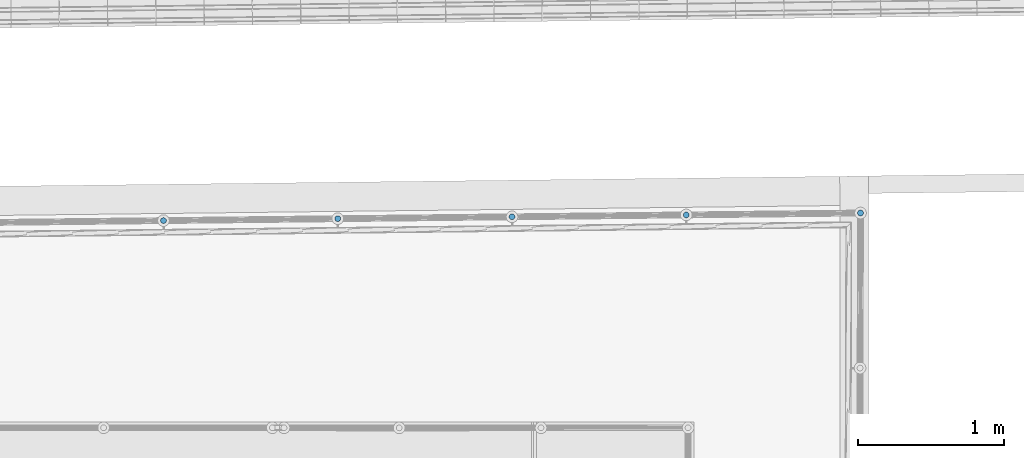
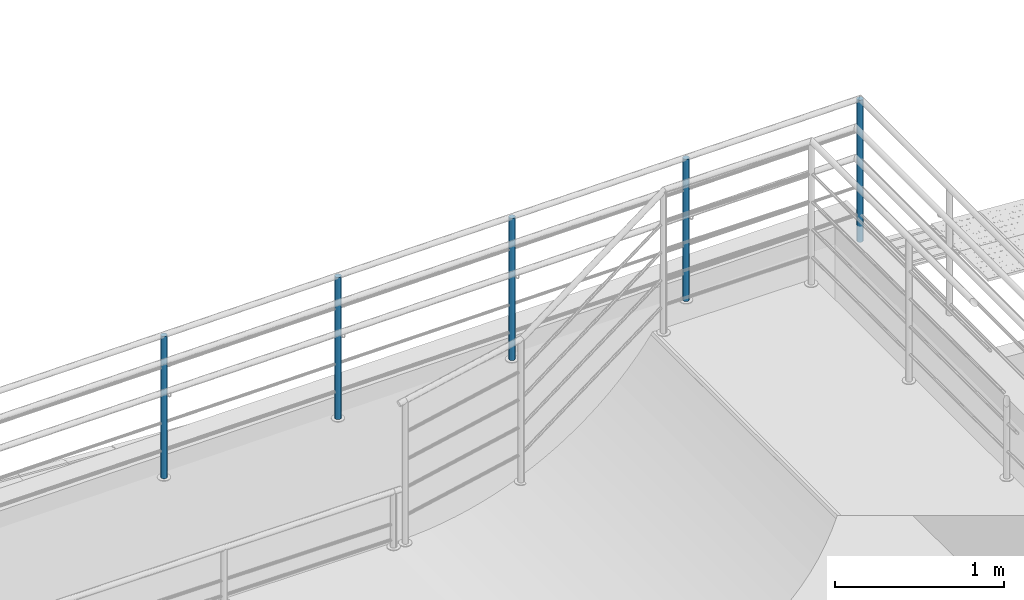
# One storey, part 73 of 237: 5 building element parts, 1 element without a shape of its own.
"""IFC2X3 building model written with IfcOpenShell, lengths in millimetres."""

from ifc_helpers import new_model, entity, si_unit, converted_unit, derived_unit, money_unit, direction, frame, origin_with_axes, place, context, subcontext, project, spatial, faceted_brep, material, type_object, element, aggregate, save


model = new_model("IFC2X3")

# Units and contexts
model_context = context("Model", 3, precision=0.01, world=origin_with_axes(), true_north=direction((0.0, 1.0)))
body_context = subcontext(model_context, "Body", "Model", "MODEL_VIEW")
ifc_project = project(units=[si_unit("LENGTHUNIT", "METRE", prefix="MILLI"), si_unit("AREAUNIT", "SQUARE_METRE"), si_unit("VOLUMEUNIT", "CUBIC_METRE"), converted_unit("PLANEANGLEUNIT", "DEGREE", entity("IfcPlaneAngleMeasure", 0.0174532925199), si_unit("PLANEANGLEUNIT", "RADIAN"), dimensions=[0, 0, 0, 0, 0, 0, 0]), money_unit("USD"), converted_unit("TIMEUNIT", "Year", entity("IfcTimeMeasure", 31556926.0), si_unit("TIMEUNIT", "SECOND"), dimensions=[0, 0, 1, 0, 0, 0, 0]), si_unit("MASSUNIT", "GRAM", prefix="KILO"), si_unit("THERMODYNAMICTEMPERATUREUNIT", "DEGREE_CELSIUS"), si_unit("LUMINOUSINTENSITYUNIT", "LUMEN"), si_unit("ENERGYUNIT", "JOULE", prefix="MEGA"), derived_unit("THERMALCONDUCTANCEUNIT", [(si_unit("POWERUNIT", "WATT"), 1), (si_unit("LENGTHUNIT", "METRE"), -1), (si_unit("THERMODYNAMICTEMPERATUREUNIT", "KELVIN"), -1)]), derived_unit("SPECIFICHEATCAPACITYUNIT", [(si_unit("ENERGYUNIT", "JOULE"), 1), (si_unit("MASSUNIT", "GRAM", prefix="KILO"), -1), (si_unit("THERMODYNAMICTEMPERATUREUNIT", "KELVIN"), -1)]), derived_unit("MASSDENSITYUNIT", [(si_unit("MASSUNIT", "GRAM", prefix="KILO"), 1), (si_unit("VOLUMEUNIT", "CUBIC_METRE"), -1)])], contexts=[model_context])

# Site, building, storey
site_placement = place(None, origin_with_axes())
site = spatial("IfcSite", under=ifc_project, at=site_placement, Name="Local", CompositionType="ELEMENT")
building_placement = place(site_placement, origin_with_axes())
building = spatial("IfcBuilding", under=site, at=building_placement, Name="Construção", CompositionType="ELEMENT")
storey_placement = place(building_placement, origin_with_axes())
storey = spatial("IfcBuildingStorey", under=building, at=storey_placement, Name="Pavimento Térreo", CompositionType="ELEMENT", Elevation=0.0)

# Railing, building element parts
railing_type = type_object("IfcRailingType", Name="Tipo de Guarda-Corpo", PredefinedType="NOTDEFINED")
railing_placement = place(storey_placement, frame((70326.6870103, 28675.2458388, -1357.10819655), z_axis=(0.0, 0.0, 1.0), x_axis=(1.0, 0.0, 0.0)))
railing = element("IfcRailing", 1, at=railing_placement, inside=storey, type_object=railing_type, Name="Guarda-Corpo - 004", PredefinedType="NOTDEFINED")
ifc_material = material(Name="Aço - Inoxidável")
building_element_part_1_placement = place(railing_placement, origin_with_axes())
building_element_part_1 = element("IfcBuildingElementPart", 2, at=building_element_part_1_placement, material=ifc_material, Name="Aço - Inoxidável", context=body_context, shape_type="Brep", body=[
    faceted_brep([(-4702.19254738, 6648.47087364, 5.0), (-4701.87830508, 6651.94291185, 5.0), (-4701.87830508, 6651.94291185, 1030.0), (-4702.19254738, 6648.47087364, 1030.0), (-4702.17174992, 6655.41676961, 5.0), (-4703.10492875, 6645.10615109, 5.0), (-4704.58772694, 6641.9509796, 5.0), (-4706.59588787, 6639.10122746, 5.0), (-4709.06839459, 6636.64348294, 5.0), (-4711.93012123, 6634.65242337, 5.0), (-4715.09411568, 6633.18854608, 5.0), (-4718.46424157, 6632.29633025, 5.0), (-4721.93809933, 6632.00288541, 5.0), (-4725.41013754, 6632.31712771, 5.0), (-4728.77486009, 6633.22950909, 5.0), (-4731.93003158, 6634.71230727, 5.0), (-4734.77978372, 6636.7204682, 5.0), (-4737.23752824, 6639.19297492, 5.0), (-4739.22858781, 6642.05470156, 5.0), (-4740.69246509, 6645.21869601, 5.0), (-4741.58468092, 6648.5888219, 5.0), (-4741.87812577, 6652.06267966, 5.0), (-4741.56388346, 6655.53471787, 5.0), (-4740.65150209, 6658.89944042, 5.0), (-4739.16870391, 6662.05461191, 5.0), (-4737.16054298, 6664.90436405, 5.0), (-4734.68803626, 6667.36210857, 5.0), (-4731.82630962, 6669.35316814, 5.0), (-4728.66231517, 6670.81704543, 5.0), (-4725.29218928, 6671.70926125, 5.0), (-4721.81833152, 6672.0027061, 5.0), (-4718.34629331, 6671.68846379, 5.0), (-4714.98157076, 6670.77608242, 5.0), (-4711.82639927, 6669.29328424, 5.0), (-4708.97664713, 6667.28512331, 5.0), (-4706.51890261, 6664.81261659, 5.0), (-4704.52784304, 6661.95088995, 5.0), (-4703.06396575, 6658.7868955, 5.0), (-4702.17174992, 6655.41676961, 1030.0), (-4725.41013754, 6632.31712771, 1030.0), (-4721.93809933, 6632.00288541, 1030.0), (-4718.46424157, 6632.29633025, 1030.0), (-4715.09411568, 6633.18854608, 1030.0), (-4711.93012123, 6634.65242337, 1030.0), (-4709.06839459, 6636.64348294, 1030.0), (-4706.59588787, 6639.10122746, 1030.0), (-4704.58772694, 6641.9509796, 1030.0), (-4703.10492875, 6645.10615109, 1030.0), (-4703.06396575, 6658.7868955, 1030.0), (-4704.52784304, 6661.95088995, 1030.0), (-4706.51890261, 6664.81261659, 1030.0), (-4708.97664713, 6667.28512331, 1030.0), (-4711.82639927, 6669.29328424, 1030.0), (-4714.98157076, 6670.77608242, 1030.0), (-4718.34629331, 6671.68846379, 1030.0), (-4721.81833152, 6672.0027061, 1030.0), (-4725.29218928, 6671.70926125, 1030.0), (-4728.66231517, 6670.81704543, 1030.0), (-4731.82630962, 6669.35316814, 1030.0), (-4734.68803626, 6667.36210857, 1030.0), (-4737.16054298, 6664.90436405, 1030.0), (-4739.16870391, 6662.05461191, 1030.0), (-4740.65150209, 6658.89944042, 1030.0), (-4741.56388346, 6655.53471787, 1030.0), (-4741.87812577, 6652.06267966, 1030.0), (-4741.58468092, 6648.5888219, 1030.0), (-4740.69246509, 6645.21869601, 1030.0), (-4739.22858781, 6642.05470156, 1030.0), (-4737.23752824, 6639.19297492, 1030.0), (-4734.77978372, 6636.7204682, 1030.0), (-4731.93003158, 6634.71230727, 1030.0), (-4728.77486009, 6633.22950909, 1030.0)], [[[0, 1, 2, 3]], [[4, 1, 0, 5, 6, 7, 8, 9, 10, 11, 12, 13, 14, 15, 16, 17, 18, 19, 20, 21, 22, 23, 24, 25, 26, 27, 28, 29, 30, 31, 32, 33, 34, 35, 36, 37]], [[1, 4, 38, 2]], [[39, 40, 41, 42, 43, 44, 45, 46, 47, 3, 2, 38, 48, 49, 50, 51, 52, 53, 54, 55, 56, 57, 58, 59, 60, 61, 62, 63, 64, 65, 66, 67, 68, 69, 70, 71]], [[5, 0, 3, 47]], [[6, 5, 47, 46]], [[7, 6, 46, 45]], [[8, 7, 45, 44]], [[9, 8, 44, 43]], [[10, 9, 43, 42]], [[11, 10, 42, 41]], [[12, 11, 41, 40]], [[13, 12, 40, 39]], [[14, 13, 39, 71]], [[15, 14, 71, 70]], [[16, 15, 70, 69]], [[17, 16, 69, 68]], [[18, 17, 68, 67]], [[19, 18, 67, 66]], [[20, 19, 66, 65]], [[21, 20, 65, 64]], [[22, 21, 64, 63]], [[23, 22, 63, 62]], [[24, 23, 62, 61]], [[25, 24, 61, 60]], [[26, 25, 60, 59]], [[27, 26, 59, 58]], [[28, 27, 58, 57]], [[29, 28, 57, 56]], [[30, 29, 56, 55]], [[31, 30, 55, 54]], [[32, 31, 54, 53]], [[33, 32, 53, 52]], [[34, 33, 52, 51]], [[35, 34, 51, 50]], [[36, 35, 50, 49]], [[37, 36, 49, 48]], [[4, 37, 48, 38]]]),
])
building_element_part_2_placement = place(railing_placement, origin_with_axes())
building_element_part_2 = element("IfcBuildingElementPart", 3, at=building_element_part_2_placement, material=ifc_material, Name="Aço - Inoxidável", context=body_context, shape_type="Brep", body=[
    faceted_brep([(-5913.25690001, 6658.74187473, 5.0), (-5916.73296278, 6659.00792963, 5.0), (-5916.73296278, 6659.00792963, 1030.0), (-5913.25690001, 6658.74187473, 1030.0), (-5920.2024163, 6658.66633059, 5.0), (-5909.87984639, 6657.87624983, 5.0), (-5906.70441199, 6656.43735652, 5.0), (-5903.82708078, 6654.46891483, 5.0), (-5901.33527901, 6652.03073488, 5.0), (-5899.3047188, 6649.19689951, 5.0), (-5897.79709772, 6646.0535134, 5.0), (-5896.85822406, 6642.69608673, 5.0), (-5896.51662502, 6639.22663322, 5.0), (-5896.78267992, 6635.75057045, 5.0), (-5897.64830482, 6632.37351683, 5.0), (-5899.08719813, 6629.19808243, 5.0), (-5901.05563982, 6626.32075122, 5.0), (-5903.49381978, 6623.82894944, 5.0), (-5906.32765514, 6621.79838924, 5.0), (-5909.47104125, 6620.29076816, 5.0), (-5912.82846792, 6619.3518945, 5.0), (-5916.29792143, 6619.01029546, 5.0), (-5919.7739842, 6619.27635036, 5.0), (-5923.15103782, 6620.14197525, 5.0), (-5926.32647222, 6621.58086857, 5.0), (-5929.20380343, 6623.54931025, 5.0), (-5931.69560521, 6625.98749021, 5.0), (-5933.72616541, 6628.82132557, 5.0), (-5935.23378649, 6631.96471169, 5.0), (-5936.17266015, 6635.32213836, 5.0), (-5936.51425919, 6638.79159187, 5.0), (-5936.24820429, 6642.26765464, 5.0), (-5935.3825794, 6645.64470826, 5.0), (-5933.94368608, 6648.82014266, 5.0), (-5931.9752444, 6651.69747387, 5.0), (-5929.53706444, 6654.18927565, 5.0), (-5926.70322908, 6656.21983585, 5.0), (-5923.55984296, 6657.72745693, 5.0), (-5920.2024163, 6658.66633059, 1030.0), (-5896.78267992, 6635.75057045, 1030.0), (-5896.51662502, 6639.22663322, 1030.0), (-5896.85822406, 6642.69608673, 1030.0), (-5897.79709772, 6646.0535134, 1030.0), (-5899.3047188, 6649.19689951, 1030.0), (-5901.33527901, 6652.03073488, 1030.0), (-5903.82708078, 6654.46891483, 1030.0), (-5906.70441199, 6656.43735652, 1030.0), (-5909.87984639, 6657.87624983, 1030.0), (-5923.55984296, 6657.72745693, 1030.0), (-5926.70322908, 6656.21983585, 1030.0), (-5929.53706444, 6654.18927565, 1030.0), (-5931.9752444, 6651.69747387, 1030.0), (-5933.94368608, 6648.82014266, 1030.0), (-5935.3825794, 6645.64470826, 1030.0), (-5936.24820429, 6642.26765464, 1030.0), (-5936.51425919, 6638.79159187, 1030.0), (-5936.17266015, 6635.32213836, 1030.0), (-5935.23378649, 6631.96471169, 1030.0), (-5933.72616541, 6628.82132557, 1030.0), (-5931.69560521, 6625.98749021, 1030.0), (-5929.20380343, 6623.54931025, 1030.0), (-5926.32647222, 6621.58086857, 1030.0), (-5923.15103782, 6620.14197525, 1030.0), (-5919.7739842, 6619.27635036, 1030.0), (-5916.29792143, 6619.01029546, 1030.0), (-5912.82846792, 6619.3518945, 1030.0), (-5909.47104125, 6620.29076816, 1030.0), (-5906.32765514, 6621.79838924, 1030.0), (-5903.49381978, 6623.82894944, 1030.0), (-5901.05563982, 6626.32075122, 1030.0), (-5899.08719813, 6629.19808243, 1030.0), (-5897.64830482, 6632.37351683, 1030.0)], [[[0, 1, 2, 3]], [[4, 1, 0, 5, 6, 7, 8, 9, 10, 11, 12, 13, 14, 15, 16, 17, 18, 19, 20, 21, 22, 23, 24, 25, 26, 27, 28, 29, 30, 31, 32, 33, 34, 35, 36, 37]], [[1, 4, 38, 2]], [[39, 40, 41, 42, 43, 44, 45, 46, 47, 3, 2, 38, 48, 49, 50, 51, 52, 53, 54, 55, 56, 57, 58, 59, 60, 61, 62, 63, 64, 65, 66, 67, 68, 69, 70, 71]], [[5, 0, 3, 47]], [[6, 5, 47, 46]], [[7, 6, 46, 45]], [[8, 7, 45, 44]], [[9, 8, 44, 43]], [[10, 9, 43, 42]], [[11, 10, 42, 41]], [[12, 11, 41, 40]], [[13, 12, 40, 39]], [[14, 13, 39, 71]], [[15, 14, 71, 70]], [[16, 15, 70, 69]], [[17, 16, 69, 68]], [[18, 17, 68, 67]], [[19, 18, 67, 66]], [[20, 19, 66, 65]], [[21, 20, 65, 64]], [[22, 21, 64, 63]], [[23, 22, 63, 62]], [[24, 23, 62, 61]], [[25, 24, 61, 60]], [[26, 25, 60, 59]], [[27, 26, 59, 58]], [[28, 27, 58, 57]], [[29, 28, 57, 56]], [[30, 29, 56, 55]], [[31, 30, 55, 54]], [[32, 31, 54, 53]], [[33, 32, 53, 52]], [[34, 33, 52, 51]], [[35, 34, 51, 50]], [[36, 35, 50, 49]], [[37, 36, 49, 48]], [[4, 37, 48, 38]]]),
])
building_element_part_3_placement = place(railing_placement, origin_with_axes())
building_element_part_3 = element("IfcBuildingElementPart", 4, at=building_element_part_3_placement, material=ifc_material, Name="Aço - Inoxidável", context=body_context, shape_type="Brep", body=[
    faceted_brep([(-7107.8941267, 6645.74819152, 5.0), (-7111.37018947, 6646.01424642, 5.0), (-7111.37018947, 6646.01424642, 1030.0), (-7107.8941267, 6645.74819152, 1030.0), (-7114.83964298, 6645.67264738, 5.0), (-7104.51707308, 6644.88256662, 5.0), (-7101.34163868, 6643.44367331, 5.0), (-7098.46430747, 6641.47523162, 5.0), (-7095.97250569, 6639.03705166, 5.0), (-7093.94194549, 6636.2032163, 5.0), (-7092.43432441, 6633.05983019, 5.0), (-7091.49545075, 6629.70240352, 5.0), (-7091.15385171, 6626.23295, 5.0), (-7091.41990661, 6622.75688723, 5.0), (-7092.2855315, 6619.37983362, 5.0), (-7093.72442482, 6616.20439922, 5.0), (-7095.6928665, 6613.327068, 5.0), (-7098.13104646, 6610.83526623, 5.0), (-7100.96488182, 6608.80470603, 5.0), (-7104.10826794, 6607.29708495, 5.0), (-7107.46569461, 6606.35821128, 5.0), (-7110.93514812, 6606.01661225, 5.0), (-7114.41121089, 6606.28266715, 5.0), (-7117.78826451, 6607.14829204, 5.0), (-7120.96369891, 6608.58718535, 5.0), (-7123.84103012, 6610.55562704, 5.0), (-7126.3328319, 6612.993807, 5.0), (-7128.3633921, 6615.82764236, 5.0), (-7129.87101318, 6618.97102847, 5.0), (-7130.80988684, 6622.32845514, 5.0), (-7131.15148588, 6625.79790866, 5.0), (-7130.88543098, 6629.27397143, 5.0), (-7130.01980608, 6632.65102505, 5.0), (-7128.58091277, 6635.82645944, 5.0), (-7126.61247108, 6638.70379066, 5.0), (-7124.17429113, 6641.19559243, 5.0), (-7121.34045576, 6643.22615264, 5.0), (-7118.19706965, 6644.73377372, 5.0), (-7114.83964298, 6645.67264738, 1030.0), (-7091.41990661, 6622.75688723, 1030.0), (-7091.15385171, 6626.23295, 1030.0), (-7091.49545075, 6629.70240352, 1030.0), (-7092.43432441, 6633.05983019, 1030.0), (-7093.94194549, 6636.2032163, 1030.0), (-7095.97250569, 6639.03705166, 1030.0), (-7098.46430747, 6641.47523162, 1030.0), (-7101.34163868, 6643.44367331, 1030.0), (-7104.51707308, 6644.88256662, 1030.0), (-7118.19706965, 6644.73377372, 1030.0), (-7121.34045576, 6643.22615264, 1030.0), (-7124.17429113, 6641.19559243, 1030.0), (-7126.61247108, 6638.70379066, 1030.0), (-7128.58091277, 6635.82645944, 1030.0), (-7130.01980608, 6632.65102505, 1030.0), (-7130.88543098, 6629.27397143, 1030.0), (-7131.15148588, 6625.79790866, 1030.0), (-7130.80988684, 6622.32845514, 1030.0), (-7129.87101318, 6618.97102847, 1030.0), (-7128.3633921, 6615.82764236, 1030.0), (-7126.3328319, 6612.993807, 1030.0), (-7123.84103012, 6610.55562704, 1030.0), (-7120.96369891, 6608.58718535, 1030.0), (-7117.78826451, 6607.14829204, 1030.0), (-7114.41121089, 6606.28266715, 1030.0), (-7110.93514812, 6606.01661225, 1030.0), (-7107.46569461, 6606.35821128, 1030.0), (-7104.10826794, 6607.29708495, 1030.0), (-7100.96488182, 6608.80470603, 1030.0), (-7098.13104646, 6610.83526623, 1030.0), (-7095.6928665, 6613.327068, 1030.0), (-7093.72442482, 6616.20439922, 1030.0), (-7092.2855315, 6619.37983362, 1030.0)], [[[0, 1, 2, 3]], [[4, 1, 0, 5, 6, 7, 8, 9, 10, 11, 12, 13, 14, 15, 16, 17, 18, 19, 20, 21, 22, 23, 24, 25, 26, 27, 28, 29, 30, 31, 32, 33, 34, 35, 36, 37]], [[1, 4, 38, 2]], [[39, 40, 41, 42, 43, 44, 45, 46, 47, 3, 2, 38, 48, 49, 50, 51, 52, 53, 54, 55, 56, 57, 58, 59, 60, 61, 62, 63, 64, 65, 66, 67, 68, 69, 70, 71]], [[5, 0, 3, 47]], [[6, 5, 47, 46]], [[7, 6, 46, 45]], [[8, 7, 45, 44]], [[9, 8, 44, 43]], [[10, 9, 43, 42]], [[11, 10, 42, 41]], [[12, 11, 41, 40]], [[13, 12, 40, 39]], [[14, 13, 39, 71]], [[15, 14, 71, 70]], [[16, 15, 70, 69]], [[17, 16, 69, 68]], [[18, 17, 68, 67]], [[19, 18, 67, 66]], [[20, 19, 66, 65]], [[21, 20, 65, 64]], [[22, 21, 64, 63]], [[23, 22, 63, 62]], [[24, 23, 62, 61]], [[25, 24, 61, 60]], [[26, 25, 60, 59]], [[27, 26, 59, 58]], [[28, 27, 58, 57]], [[29, 28, 57, 56]], [[30, 29, 56, 55]], [[31, 30, 55, 54]], [[32, 31, 54, 53]], [[33, 32, 53, 52]], [[34, 33, 52, 51]], [[35, 34, 51, 50]], [[36, 35, 50, 49]], [[37, 36, 49, 48]], [[4, 37, 48, 38]]]),
])
building_element_part_4_placement = place(railing_placement, origin_with_axes())
building_element_part_4 = element("IfcBuildingElementPart", 5, at=building_element_part_4_placement, material=ifc_material, Name="Aço - Inoxidável", context=body_context, shape_type="Brep", body=[
    faceted_brep([(-8302.53135338, 6632.7545083, 5.0), (-8306.00741615, 6633.0205632, 5.0), (-8306.00741615, 6633.0205632, 1030.0), (-8302.53135338, 6632.7545083, 1030.0), (-8309.47686967, 6632.67896417, 5.0), (-8299.15429976, 6631.88888341, 5.0), (-8295.97886536, 6630.4499901, 5.0), (-8293.10153415, 6628.48154841, 5.0), (-8290.60973238, 6626.04336845, 5.0), (-8288.57917217, 6623.20953309, 5.0), (-8287.07155109, 6620.06614698, 5.0), (-8286.13267743, 6616.70872031, 5.0), (-8285.79107839, 6613.23926679, 5.0), (-8286.05713329, 6609.76320402, 5.0), (-8286.92275819, 6606.38615041, 5.0), (-8288.3616515, 6603.21071601, 5.0), (-8290.33009319, 6600.33338479, 5.0), (-8292.76827314, 6597.84158302, 5.0), (-8295.60210851, 6595.81102282, 5.0), (-8298.74549462, 6594.30340173, 5.0), (-8302.10292129, 6593.36452807, 5.0), (-8305.5723748, 6593.02292904, 5.0), (-8309.04843757, 6593.28898394, 5.0), (-8312.42549119, 6594.15460883, 5.0), (-8315.60092559, 6595.59350214, 5.0), (-8318.4782568, 6597.56194383, 5.0), (-8320.97005858, 6600.00012379, 5.0), (-8323.00061878, 6602.83395915, 5.0), (-8324.50823986, 6605.97734526, 5.0), (-8325.44711352, 6609.33477193, 5.0), (-8325.78871256, 6612.80422545, 5.0), (-8325.52265766, 6616.28028822, 5.0), (-8324.65703277, 6619.65734183, 5.0), (-8323.21813945, 6622.83277623, 5.0), (-8321.24969777, 6625.71010745, 5.0), (-8318.81151781, 6628.20190922, 5.0), (-8315.97768245, 6630.23246942, 5.0), (-8312.83429633, 6631.74009051, 5.0), (-8309.47686967, 6632.67896417, 1030.0), (-8286.05713329, 6609.76320402, 1030.0), (-8285.79107839, 6613.23926679, 1030.0), (-8286.13267743, 6616.70872031, 1030.0), (-8287.07155109, 6620.06614698, 1030.0), (-8288.57917217, 6623.20953309, 1030.0), (-8290.60973238, 6626.04336845, 1030.0), (-8293.10153415, 6628.48154841, 1030.0), (-8295.97886536, 6630.4499901, 1030.0), (-8299.15429976, 6631.88888341, 1030.0), (-8312.83429633, 6631.74009051, 1030.0), (-8315.97768245, 6630.23246942, 1030.0), (-8318.81151781, 6628.20190922, 1030.0), (-8321.24969777, 6625.71010745, 1030.0), (-8323.21813945, 6622.83277623, 1030.0), (-8324.65703277, 6619.65734183, 1030.0), (-8325.52265766, 6616.28028822, 1030.0), (-8325.78871256, 6612.80422545, 1030.0), (-8325.44711352, 6609.33477193, 1030.0), (-8324.50823986, 6605.97734526, 1030.0), (-8323.00061878, 6602.83395915, 1030.0), (-8320.97005858, 6600.00012379, 1030.0), (-8318.4782568, 6597.56194383, 1030.0), (-8315.60092559, 6595.59350214, 1030.0), (-8312.42549119, 6594.15460883, 1030.0), (-8309.04843757, 6593.28898394, 1030.0), (-8305.5723748, 6593.02292904, 1030.0), (-8302.10292129, 6593.36452807, 1030.0), (-8298.74549462, 6594.30340173, 1030.0), (-8295.60210851, 6595.81102282, 1030.0), (-8292.76827314, 6597.84158302, 1030.0), (-8290.33009319, 6600.33338479, 1030.0), (-8288.3616515, 6603.21071601, 1030.0), (-8286.92275819, 6606.38615041, 1030.0)], [[[0, 1, 2, 3]], [[4, 1, 0, 5, 6, 7, 8, 9, 10, 11, 12, 13, 14, 15, 16, 17, 18, 19, 20, 21, 22, 23, 24, 25, 26, 27, 28, 29, 30, 31, 32, 33, 34, 35, 36, 37]], [[1, 4, 38, 2]], [[39, 40, 41, 42, 43, 44, 45, 46, 47, 3, 2, 38, 48, 49, 50, 51, 52, 53, 54, 55, 56, 57, 58, 59, 60, 61, 62, 63, 64, 65, 66, 67, 68, 69, 70, 71]], [[5, 0, 3, 47]], [[6, 5, 47, 46]], [[7, 6, 46, 45]], [[8, 7, 45, 44]], [[9, 8, 44, 43]], [[10, 9, 43, 42]], [[11, 10, 42, 41]], [[12, 11, 41, 40]], [[13, 12, 40, 39]], [[14, 13, 39, 71]], [[15, 14, 71, 70]], [[16, 15, 70, 69]], [[17, 16, 69, 68]], [[18, 17, 68, 67]], [[19, 18, 67, 66]], [[20, 19, 66, 65]], [[21, 20, 65, 64]], [[22, 21, 64, 63]], [[23, 22, 63, 62]], [[24, 23, 62, 61]], [[25, 24, 61, 60]], [[26, 25, 60, 59]], [[27, 26, 59, 58]], [[28, 27, 58, 57]], [[29, 28, 57, 56]], [[30, 29, 56, 55]], [[31, 30, 55, 54]], [[32, 31, 54, 53]], [[33, 32, 53, 52]], [[34, 33, 52, 51]], [[35, 34, 51, 50]], [[36, 35, 50, 49]], [[37, 36, 49, 48]], [[4, 37, 48, 38]]]),
])
building_element_part_5_placement = place(railing_placement, origin_with_axes())
building_element_part_5 = element("IfcBuildingElementPart", 6, at=building_element_part_5_placement, material=ifc_material, Name="Aço - Inoxidável", context=body_context, shape_type="Brep", body=[
    faceted_brep([(-9497.16858007, 6619.76082509, 5.0), (-9500.64464284, 6620.02687999, 5.0), (-9500.64464284, 6620.02687999, 1030.0), (-9497.16858007, 6619.76082509, 1030.0), (-9504.11409635, 6619.68528096, 5.0), (-9493.79152645, 6618.8952002, 5.0), (-9490.61609205, 6617.45630689, 5.0), (-9487.73876084, 6615.4878652, 5.0), (-9485.24695906, 6613.04968524, 5.0), (-9483.21639886, 6610.21584988, 5.0), (-9481.70877778, 6607.07246377, 5.0), (-9480.76990412, 6603.7150371, 5.0), (-9480.42830508, 6600.24558358, 5.0), (-9480.69435998, 6596.76952081, 5.0), (-9481.55998487, 6593.39246719, 5.0), (-9482.99887819, 6590.2170328, 5.0), (-9484.96731987, 6587.33970158, 5.0), (-9487.40549983, 6584.84789981, 5.0), (-9490.23933519, 6582.81733961, 5.0), (-9493.38272131, 6581.30971852, 5.0), (-9496.74014797, 6580.37084486, 5.0), (-9500.20960149, 6580.02924582, 5.0), (-9503.68566426, 6580.29530072, 5.0), (-9507.06271788, 6581.16092562, 5.0), (-9510.23815228, 6582.59981893, 5.0), (-9513.11548349, 6584.56826062, 5.0), (-9515.60728526, 6587.00644058, 5.0), (-9517.63784547, 6589.84027594, 5.0), (-9519.14546655, 6592.98366205, 5.0), (-9520.08434021, 6596.34108872, 5.0), (-9520.42593925, 6599.81054224, 5.0), (-9520.15988435, 6603.28660501, 5.0), (-9519.29425945, 6606.66365862, 5.0), (-9517.85536614, 6609.83909302, 5.0), (-9515.88692445, 6612.71642424, 5.0), (-9513.4487445, 6615.20822601, 5.0), (-9510.61490913, 6617.23878621, 5.0), (-9507.47152302, 6618.7464073, 5.0), (-9504.11409635, 6619.68528096, 1030.0), (-9480.69435998, 6596.76952081, 1030.0), (-9480.42830508, 6600.24558358, 1030.0), (-9480.76990412, 6603.7150371, 1030.0), (-9481.70877778, 6607.07246377, 1030.0), (-9483.21639886, 6610.21584988, 1030.0), (-9485.24695906, 6613.04968524, 1030.0), (-9487.73876084, 6615.4878652, 1030.0), (-9490.61609205, 6617.45630689, 1030.0), (-9493.79152645, 6618.8952002, 1030.0), (-9507.47152302, 6618.7464073, 1030.0), (-9510.61490913, 6617.23878621, 1030.0), (-9513.4487445, 6615.20822601, 1030.0), (-9515.88692445, 6612.71642424, 1030.0), (-9517.85536614, 6609.83909302, 1030.0), (-9519.29425945, 6606.66365862, 1030.0), (-9520.15988435, 6603.28660501, 1030.0), (-9520.42593925, 6599.81054224, 1030.0), (-9520.08434021, 6596.34108872, 1030.0), (-9519.14546655, 6592.98366205, 1030.0), (-9517.63784547, 6589.84027594, 1030.0), (-9515.60728526, 6587.00644058, 1030.0), (-9513.11548349, 6584.56826062, 1030.0), (-9510.23815228, 6582.59981893, 1030.0), (-9507.06271788, 6581.16092562, 1030.0), (-9503.68566426, 6580.29530072, 1030.0), (-9500.20960149, 6580.02924582, 1030.0), (-9496.74014797, 6580.37084486, 1030.0), (-9493.38272131, 6581.30971852, 1030.0), (-9490.23933519, 6582.81733961, 1030.0), (-9487.40549983, 6584.84789981, 1030.0), (-9484.96731987, 6587.33970158, 1030.0), (-9482.99887819, 6590.2170328, 1030.0), (-9481.55998487, 6593.39246719, 1030.0)], [[[0, 1, 2, 3]], [[4, 1, 0, 5, 6, 7, 8, 9, 10, 11, 12, 13, 14, 15, 16, 17, 18, 19, 20, 21, 22, 23, 24, 25, 26, 27, 28, 29, 30, 31, 32, 33, 34, 35, 36, 37]], [[1, 4, 38, 2]], [[39, 40, 41, 42, 43, 44, 45, 46, 47, 3, 2, 38, 48, 49, 50, 51, 52, 53, 54, 55, 56, 57, 58, 59, 60, 61, 62, 63, 64, 65, 66, 67, 68, 69, 70, 71]], [[5, 0, 3, 47]], [[6, 5, 47, 46]], [[7, 6, 46, 45]], [[8, 7, 45, 44]], [[9, 8, 44, 43]], [[10, 9, 43, 42]], [[11, 10, 42, 41]], [[12, 11, 41, 40]], [[13, 12, 40, 39]], [[14, 13, 39, 71]], [[15, 14, 71, 70]], [[16, 15, 70, 69]], [[17, 16, 69, 68]], [[18, 17, 68, 67]], [[19, 18, 67, 66]], [[20, 19, 66, 65]], [[21, 20, 65, 64]], [[22, 21, 64, 63]], [[23, 22, 63, 62]], [[24, 23, 62, 61]], [[25, 24, 61, 60]], [[26, 25, 60, 59]], [[27, 26, 59, 58]], [[28, 27, 58, 57]], [[29, 28, 57, 56]], [[30, 29, 56, 55]], [[31, 30, 55, 54]], [[32, 31, 54, 53]], [[33, 32, 53, 52]], [[34, 33, 52, 51]], [[35, 34, 51, 50]], [[36, 35, 50, 49]], [[37, 36, 49, 48]], [[4, 37, 48, 38]]]),
])
aggregate(railing, [building_element_part_1, building_element_part_2, building_element_part_3, building_element_part_4, building_element_part_5])

save(model, "model.ifc")
